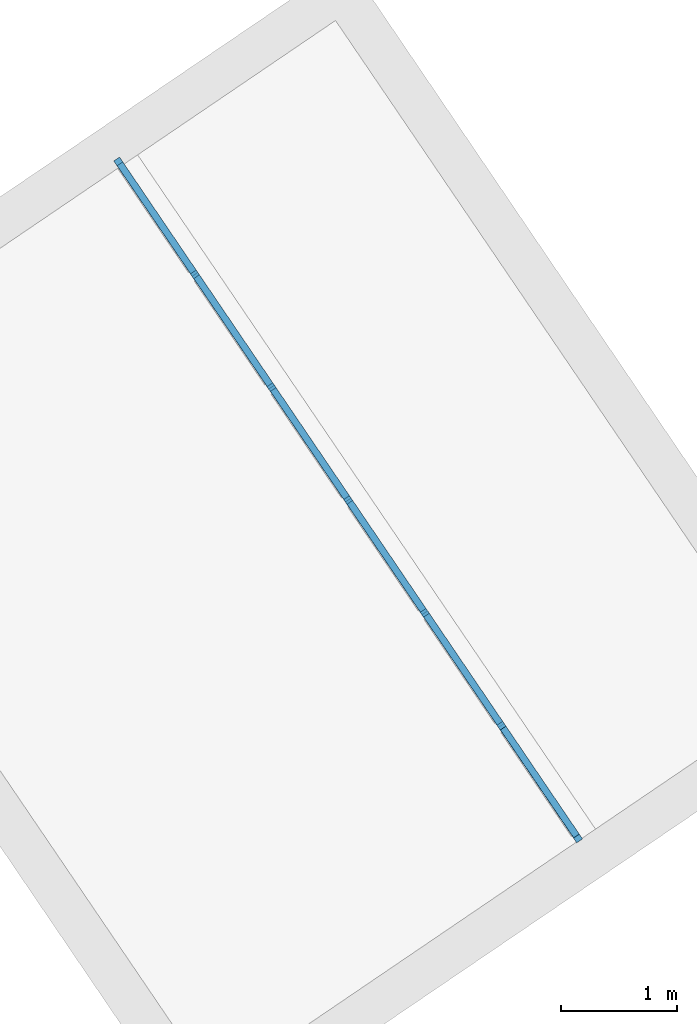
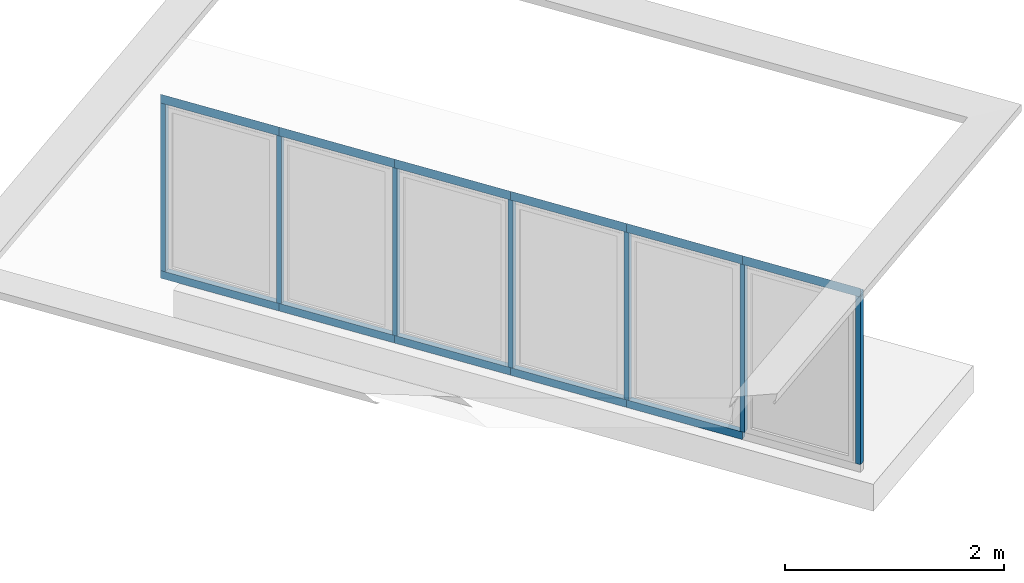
# One storey, part 18 of 28: 18 members, 1 element without a shape of its own.
"""IFC2X3 building model written with IfcOpenShell, lengths in metres."""

import ifcopenshell
import ifcopenshell.guid

model = None  # the IFC model being written
_history = None  # IfcOwnerHistory: only IFC2X3 demands one
_inside = {}  # id of a spatial element -> (the spatial element, [elements in it])
_under = {}  # id of a project, library or spatial element -> (it, [spatial elements below it])
_declared = {}  # id of a project -> (the project, [libraries it declares])
_typed = {}  # id of a type object -> (the type object, [elements of that type])
_made_of = {}  # id of a material, layer set ... -> (it, [elements and type objects made of it])


def new_model(schema):
    """Start an empty IFC model of exactly this schema.

    Asked for "IFC4X3", IfcOpenShell would pick the latest addendum, in which some entities
    have other attributes; the version numbers below select the first issue.
    IFC2X3 requires an IfcOwnerHistory on every rooted entity: one is made here for all.
    """
    global model, _history
    if schema == "IFC4X3":
        model = ifcopenshell.file(schema_version=(4, 3, 0, 0))
    else:
        model = ifcopenshell.file(schema=schema)
    _inside.clear()
    _under.clear()
    _declared.clear()
    _typed.clear()
    _made_of.clear()
    _history = None
    if model.schema == "IFC2X3":
        org = make("IfcOrganization", Name="unknown")
        user = make(
            "IfcPersonAndOrganization",
            ThePerson=make("IfcPerson", FamilyName="unknown"),
            TheOrganization=org,
        )
        app = make(
            "IfcApplication",
            ApplicationDeveloper=org,
            Version="unknown",
            ApplicationFullName="unknown",
            ApplicationIdentifier="unknown",
        )
        _history = make(
            "IfcOwnerHistory",
            OwningUser=user,
            OwningApplication=app,
            ChangeAction="ADDED",
            CreationDate=0,
        )
    return model


def make(cls, **values):
    """One entity of the class cls with the attributes given. An attribute that is None is left unset."""
    return model.create_entity(
        cls, **{name: value for name, value in values.items() if value is not None}
    )


def entity(cls, *values):
    """Any entity or typed value of the class cls, its attributes in the order of the schema. None: left unset."""
    e = model.create_entity(cls)
    for i, value in enumerate(values):
        if value is not None:
            e[i] = value
    return e


def rooted(cls, **values):
    """An entity with a GlobalId (a new one), such as an element, a storey or a relation."""
    return make(cls, GlobalId=ifcopenshell.guid.new(), OwnerHistory=_history, **values)


def si_unit(unit_type, name, prefix=None):
    """IfcSIUnit, for example si_unit("LENGTHUNIT", "METRE", prefix="MILLI")."""
    return make("IfcSIUnit", UnitType=unit_type, Prefix=prefix, Name=name)


def converted_unit(unit_type, name, factor, base, dimensions=None, offset=None):
    """IfcConversionBasedUnit, such as the inch: factor (a typed value) times the base unit."""
    return make(
        "IfcConversionBasedUnit"
        if offset is None
        else "IfcConversionBasedUnitWithOffset",
        ConversionOffset=offset,
        Dimensions=None
        if dimensions is None
        else entity("IfcDimensionalExponents", *dimensions),
        UnitType=unit_type,
        Name=name,
        ConversionFactor=make(
            "IfcMeasureWithUnit", ValueComponent=factor, UnitComponent=base
        ),
    )


def derived_unit(unit_type, elements):
    """IfcDerivedUnit: a product of units, each with its exponent."""
    return make(
        "IfcDerivedUnit",
        Elements=[
            make("IfcDerivedUnitElement", Unit=unit, Exponent=power)
            for unit, power in elements
        ],
        UnitType=unit_type,
    )


def assignment(units):
    """IfcUnitAssignment: the units of a project."""
    return None if units is None else make("IfcUnitAssignment", Units=units)


def point(xyz):
    """IfcCartesianPoint."""
    return None if xyz is None else make("IfcCartesianPoint", Coordinates=xyz)


def direction(xyz):
    """IfcDirection."""
    return None if xyz is None else make("IfcDirection", DirectionRatios=xyz)


def frame(location, z_axis=None, x_axis=None):
    """IfcAxis2Placement3D, a coordinate frame: its origin and axes. An axis left out is left unset."""
    return make(
        "IfcAxis2Placement3D",
        Location=point(location),
        Axis=direction(z_axis),
        RefDirection=direction(x_axis),
    )


def frame_2d(location, x_axis=None):
    """IfcAxis2Placement2D, a coordinate frame in the plane: its origin and x axis."""
    return make(
        "IfcAxis2Placement2D", Location=point(location), RefDirection=direction(x_axis)
    )


def origin():
    """The frame at (0, 0, 0) with its axes left unset."""
    return frame((0.0, 0.0, 0.0))


def origin_2d_with_axis():
    """The frame at (0, 0) in the plane with the x axis (1, 0) written out."""
    return frame_2d((0.0, 0.0), x_axis=(1.0, 0.0))


def place(relative_to, where):
    """IfcLocalPlacement: puts the frame where relative to a parent placement (None: the world)."""
    return make(
        "IfcLocalPlacement", PlacementRelTo=relative_to, RelativePlacement=where
    )


def context(
    kind, dimensions, precision=None, world=None, true_north=None, identifier=None
):
    """IfcGeometricRepresentationContext, for example the 3D "Model" context."""
    return make(
        "IfcGeometricRepresentationContext",
        ContextIdentifier=identifier,
        ContextType=kind,
        CoordinateSpaceDimension=dimensions,
        Precision=precision,
        WorldCoordinateSystem=world,
        TrueNorth=true_north,
    )


def subcontext(parent, identifier, kind, view, scale=None):
    """IfcGeometricRepresentationSubContext, for example "Body" below "Model"."""
    return make(
        "IfcGeometricRepresentationSubContext",
        ContextIdentifier=identifier,
        ContextType=kind,
        ParentContext=parent,
        TargetScale=scale,
        TargetView=view,
    )


def project(units=None, contexts=None):
    """IfcProject with its units and contexts."""
    return rooted(
        "IfcProject",
        Name="project",
        RepresentationContexts=contexts,
        UnitsInContext=assignment(units),
    )


def spatial(cls, under=None, at=None, **own):
    """A site, building, storey or space (cls), placed at a placement, below another one or the project."""
    s = rooted(cls, ObjectPlacement=at, **own)
    if under is not None:
        _under.setdefault(under.id(), (under, []))[1].append(s)
    return s


def polyline(points):
    """IfcPolyline through the points."""
    return make("IfcPolyline", Points=[point(p) for p in points])


def profile(cls, at=None, kind="AREA", **sizes):
    """A parametric profile (cls). Its sizes go by their IFC names, for example OverallWidth=200.0."""
    return make(cls, ProfileType=kind, Position=at, **sizes)


def rectangle(**sizes):
    """IfcRectangleProfileDef."""
    return profile("IfcRectangleProfileDef", **sizes)


def outline(outer, holes=None, kind="AREA"):
    """IfcArbitraryClosedProfileDef: a profile drawn as a closed curve; with holes, ...WithVoids."""
    if holes is None:
        return make("IfcArbitraryClosedProfileDef", ProfileType=kind, OuterCurve=outer)
    return make(
        "IfcArbitraryProfileDefWithVoids",
        ProfileType=kind,
        OuterCurve=outer,
        InnerCurves=holes,
    )


def extrude(swept, where, along, depth):
    """IfcExtrudedAreaSolid: the profile swept, set in the frame where, extruded along a direction by depth."""
    return make(
        "IfcExtrudedAreaSolid",
        SweptArea=swept,
        Position=where,
        ExtrudedDirection=direction(along),
        Depth=depth,
    )


def shape(context_of_items, identifier, shape_type, items):
    """IfcShapeRepresentation: the items that make up one representation, for example the "Body"."""
    return make(
        "IfcShapeRepresentation",
        ContextOfItems=context_of_items,
        RepresentationIdentifier=identifier,
        RepresentationType=shape_type,
        Items=items,
    )


def source(mapping_origin, context_of_items, identifier, shape_type, items):
    """IfcRepresentationMap: a shape defined once, which mapped items show again and again."""
    return make(
        "IfcRepresentationMap",
        MappingOrigin=mapping_origin,
        MappedRepresentation=shape(context_of_items, identifier, shape_type, items),
    )


def transform(
    local_origin,
    x_axis=None,
    y_axis=None,
    z_axis=None,
    scale=None,
    scale2=None,
    scale3=None,
    uniform=True,
):
    """IfcCartesianTransformationOperator3D, or its non-uniform kind. x_axis, y_axis, z_axis: its Axis1, 2, 3."""
    if uniform:
        return make(
            "IfcCartesianTransformationOperator3D",
            Axis1=direction(x_axis),
            Axis2=direction(y_axis),
            LocalOrigin=point(local_origin),
            Scale=scale,
            Axis3=direction(z_axis),
        )
    return make(
        "IfcCartesianTransformationOperator3DnonUniform",
        Axis1=direction(x_axis),
        Axis2=direction(y_axis),
        LocalOrigin=point(local_origin),
        Scale=scale,
        Axis3=direction(z_axis),
        Scale2=scale2,
        Scale3=scale3,
    )


def mapped(mapping_source, mapping_target):
    """IfcMappedItem: shows the shape of a source again, moved by a transform."""
    return make(
        "IfcMappedItem", MappingSource=mapping_source, MappingTarget=mapping_target
    )


def material(Name=None, Category=None):
    """IfcMaterial."""
    return make("IfcMaterial", Name=Name, Category=Category)


def made_of(thing, what):
    """Note that an element or type object is made of a material, layer set ...; save() writes the relation."""
    if what is not None:
        _made_of.setdefault(what.id(), (what, []))[1].append(thing)
    return thing


def type_object(cls, material=None, **own):
    """A type object (cls), such as IfcWallType, which elements share."""
    return made_of(rooted(cls, **own), material)


def type_shapes(of_type, sources):
    """Give a type object the sources (RepresentationMaps) that its elements show as mapped items."""
    of_type.RepresentationMaps = sources


def element(
    cls,
    number,
    at=None,
    inside=None,
    cuts=None,
    type_object=None,
    material=None,
    context=None,
    identifier="Body",
    shape_type=None,
    held_by="IfcProductDefinitionShape",
    body=None,
    shapes=None,
    **own,
):
    """One element of the class cls, such as IfcWall. Its Tag is "e" and its number.

    at: its placement. inside: the storey or other place that contains it. cuts: it is an
    opening in that element (IfcRelVoidsElement). A single representation is given by context,
    identifier, shape_type and body (its items); several are given by shapes. held_by: the class
    of the entity that holds the representations. save() writes the other relations.
    """
    e = rooted(cls, Tag="e%d" % number, ObjectPlacement=at, **own)
    if body is not None:
        shapes = [shape(context, identifier, shape_type, body)]
    if shapes is not None:
        e.Representation = make(held_by, Representations=shapes)
    if inside is not None:
        _inside.setdefault(inside.id(), (inside, []))[1].append(e)
    if cuts is not None:
        rooted(
            "IfcRelVoidsElement", RelatingBuildingElement=cuts, RelatedOpeningElement=e
        )
    if type_object is not None:
        _typed.setdefault(type_object.id(), (type_object, []))[1].append(e)
    return made_of(e, material)


def aggregate(whole, parts):
    """IfcRelAggregates: a whole, such as a stair, and the parts it consists of."""
    return rooted("IfcRelAggregates", RelatingObject=whole, RelatedObjects=parts)


def save(model, path):
    """Write the relations noted so far, then the file.

    IfcRelAggregates (storeys below a building ...), IfcRelContainedInSpatialStructure (elements
    in a storey), IfcRelDefinesByType, IfcRelAssociatesMaterial and IfcRelDeclares: one each for
    every whole, place, type object, material and project.
    """
    for whole, parts in _under.values():
        aggregate(whole, parts)
    for where, things in _inside.values():
        rooted(
            "IfcRelContainedInSpatialStructure",
            RelatedElements=things,
            RelatingStructure=where,
        )
    for kind, things in _typed.values():
        rooted("IfcRelDefinesByType", RelatedObjects=things, RelatingType=kind)
    for what, things in _made_of.values():
        rooted("IfcRelAssociatesMaterial", RelatedObjects=things, RelatingMaterial=what)
    for by, libraries in _declared.values():
        rooted("IfcRelDeclares", RelatingContext=by, RelatedDefinitions=libraries)
    model.write(path)


model = new_model("IFC2X3")

# Units and contexts
model_context = context("Model", 3, precision=1e-05, world=origin(), true_north=direction((6.123031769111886e-17, 1.0)))
body_context = subcontext(model_context, "Body", "Model", "MODEL_VIEW")
ifc_project = project(units=[si_unit("LENGTHUNIT", "METRE"), si_unit("AREAUNIT", "SQUARE_METRE"), si_unit("VOLUMEUNIT", "CUBIC_METRE"), converted_unit("PLANEANGLEUNIT", "DEGREE", entity("IfcRatioMeasure", 0.017453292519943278), si_unit("PLANEANGLEUNIT", "RADIAN"), dimensions=[0, 0, 0, 0, 0, 0, 0]), si_unit("MASSUNIT", "GRAM", prefix="KILO"), derived_unit("MASSDENSITYUNIT", [(si_unit("MASSUNIT", "GRAM", prefix="KILO"), 1), (si_unit("LENGTHUNIT", "METRE"), -3)]), derived_unit("IONCONCENTRATIONUNIT", [(si_unit("MASSUNIT", "GRAM", prefix="KILO"), 1), (si_unit("LENGTHUNIT", "METRE"), -3)]), derived_unit("MOMENTOFINERTIAUNIT", [(si_unit("LENGTHUNIT", "METRE"), 4)]), si_unit("TIMEUNIT", "SECOND"), si_unit("FREQUENCYUNIT", "HERTZ"), si_unit("THERMODYNAMICTEMPERATUREUNIT", "DEGREE_CELSIUS"), derived_unit("THERMALTRANSMITTANCEUNIT", [(si_unit("MASSUNIT", "GRAM", prefix="KILO"), 1), (si_unit("THERMODYNAMICTEMPERATUREUNIT", "KELVIN"), -1), (si_unit("TIMEUNIT", "SECOND"), -3)]), derived_unit("THERMALCONDUCTANCEUNIT", [(si_unit("MASSUNIT", "GRAM", prefix="KILO"), 1), (si_unit("THERMODYNAMICTEMPERATUREUNIT", "KELVIN"), -1), (si_unit("TIMEUNIT", "SECOND"), -3), (si_unit("LENGTHUNIT", "METRE"), 1)]), derived_unit("VOLUMETRICFLOWRATEUNIT", [(si_unit("LENGTHUNIT", "METRE"), 3), (si_unit("TIMEUNIT", "SECOND"), -1)]), derived_unit("MASSFLOWRATEUNIT", [(si_unit("MASSUNIT", "GRAM", prefix="KILO"), 1), (si_unit("TIMEUNIT", "SECOND"), -1)]), derived_unit("ROTATIONALFREQUENCYUNIT", [(si_unit("TIMEUNIT", "SECOND"), -1)]), si_unit("ELECTRICCURRENTUNIT", "AMPERE"), si_unit("ELECTRICVOLTAGEUNIT", "VOLT"), si_unit("POWERUNIT", "WATT"), si_unit("FORCEUNIT", "NEWTON", prefix="KILO"), si_unit("ILLUMINANCEUNIT", "LUX"), si_unit("LUMINOUSFLUXUNIT", "LUMEN"), si_unit("LUMINOUSINTENSITYUNIT", "CANDELA"), derived_unit("USERDEFINED", [(si_unit("MASSUNIT", "GRAM", prefix="KILO"), -1), (si_unit("LENGTHUNIT", "METRE"), -2), (si_unit("TIMEUNIT", "SECOND"), 3), (si_unit("LUMINOUSFLUXUNIT", "LUMEN"), 1)]), derived_unit("USERDEFINED", [(si_unit("MASSUNIT", "GRAM", prefix="KILO"), 1), (si_unit("TIMEUNIT", "SECOND"), -3), (si_unit("LENGTHUNIT", "METRE"), 3), (si_unit("ELECTRICCURRENTUNIT", "AMPERE"), -2)]), derived_unit("SOUNDPOWERUNIT", [(si_unit("MASSUNIT", "GRAM", prefix="KILO"), 1), (si_unit("TIMEUNIT", "SECOND"), -3), (si_unit("LENGTHUNIT", "METRE"), 2)]), derived_unit("SOUNDPRESSUREUNIT", [(si_unit("MASSUNIT", "GRAM", prefix="KILO"), 1), (si_unit("LENGTHUNIT", "METRE"), -1), (si_unit("TIMEUNIT", "SECOND"), -2)]), derived_unit("LINEARVELOCITYUNIT", [(si_unit("LENGTHUNIT", "METRE"), 1), (si_unit("TIMEUNIT", "SECOND"), -1)]), si_unit("PRESSUREUNIT", "PASCAL"), derived_unit("USERDEFINED", [(si_unit("MASSUNIT", "GRAM", prefix="KILO"), 1), (si_unit("LENGTHUNIT", "METRE"), -2), (si_unit("TIMEUNIT", "SECOND"), -2)]), derived_unit("LINEARFORCEUNIT", [(si_unit("MASSUNIT", "GRAM", prefix="KILO"), 1), (si_unit("TIMEUNIT", "SECOND"), -2)]), derived_unit("PLANARFORCEUNIT", [(si_unit("MASSUNIT", "GRAM", prefix="KILO"), 1), (si_unit("LENGTHUNIT", "METRE"), -1), (si_unit("TIMEUNIT", "SECOND"), -2)]), derived_unit("SPECIFICHEATCAPACITYUNIT", [(si_unit("THERMODYNAMICTEMPERATUREUNIT", "KELVIN"), -1), (si_unit("LENGTHUNIT", "METRE"), 2), (si_unit("TIMEUNIT", "SECOND"), -2)]), derived_unit("HEATINGVALUEUNIT", [(si_unit("LENGTHUNIT", "METRE"), 2), (si_unit("TIMEUNIT", "SECOND"), -2)]), derived_unit("VAPORPERMEABILITYUNIT", [(si_unit("LENGTHUNIT", "METRE"), -1), (si_unit("TIMEUNIT", "SECOND"), 1)]), derived_unit("DYNAMICVISCOSITYUNIT", [(si_unit("MASSUNIT", "GRAM", prefix="KILO"), 1), (si_unit("TIMEUNIT", "SECOND"), -1), (si_unit("LENGTHUNIT", "METRE"), -1)]), derived_unit("THERMALEXPANSIONCOEFFICIENTUNIT", [(si_unit("THERMODYNAMICTEMPERATUREUNIT", "KELVIN"), -1)]), derived_unit("MODULUSOFELASTICITYUNIT", [(si_unit("MASSUNIT", "GRAM", prefix="KILO"), 1), (si_unit("LENGTHUNIT", "METRE"), -1), (si_unit("TIMEUNIT", "SECOND"), -2)]), derived_unit("ISOTHERMALMOISTURECAPACITYUNIT", [(si_unit("LENGTHUNIT", "METRE"), 3), (si_unit("MASSUNIT", "GRAM", prefix="KILO"), -1)]), derived_unit("MOISTUREDIFFUSIVITYUNIT", [(si_unit("TIMEUNIT", "SECOND"), -1), (si_unit("LENGTHUNIT", "METRE"), 2)])], contexts=[model_context])

# Site, building, storey
site_placement = place(None, frame((0.0, 0.0, 235.0), z_axis=(0.0, 0.0, 1.0), x_axis=(-0.7996477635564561, 0.6004693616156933, 0.0)))
site = spatial("IfcSite", under=ifc_project, at=site_placement, Name="Default", CompositionType="ELEMENT")
building_placement = place(site_placement, origin())
building = spatial("IfcBuilding", under=site, at=building_placement, CompositionType="ELEMENT")
storey_placement = place(building_placement, frame((0.0, 0.0, 3.400000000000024)))
storey = spatial("IfcBuildingStorey", under=building, at=storey_placement, Name="PC- Coberta STR", CompositionType="ELEMENT", Elevation=3.400000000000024)

# Curtain wall, members
curtain_wall_type = type_object("IfcCurtainWallType", Name="Muro cortina:MC- EXT- MC8- Biblio", PredefinedType="NOTDEFINED")
curtain_wall_placement = place(storey_placement, frame((0.0, 0.0, -3.400000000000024)))
curtain_wall = element("IfcCurtainWall", 1, at=curtain_wall_placement, inside=storey, type_object=curtain_wall_type, Name="Muro cortina:MC- EXT- MC8- Biblio", ObjectType="Muro cortina:MC- EXT- MC8- Biblio")
ifc_material = material(Name="_Alumini- T1- Perfil")
member_type_1 = type_object("IfcMemberType", Name="Montante rectangular:MC- Alu- 140x52,5 cm- Fa pista- Superior", PredefinedType="MULLION", material=ifc_material)
shared_shape_1 = source(origin(), body_context, "Body", "SweptSolid", [
    extrude(outline(polyline([(-0.03933333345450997, -0.04916666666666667), (0.02066666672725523, -0.04916666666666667), (0.020666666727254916, 0.048333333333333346), (0.018666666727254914, 0.04833333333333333), (0.018666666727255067, 0.00083333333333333), (-0.03933333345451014, 0.00083333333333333), (-0.03933333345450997, -0.04916666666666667)])), frame((-0.048333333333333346, -0.03933333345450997, -1.2000000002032), z_axis=(0.0, 0.0, 1.0), x_axis=(0.0, -1.0, 0.0)), (0.0, 0.0, 1.0), 1.2000000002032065),
])
type_shapes(member_type_1, [shared_shape_1])
member_1_placement = place(curtain_wall_placement, frame((65.66403931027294, -50.81347375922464, 6.0), z_axis=(0.9460037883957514, -0.3241555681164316, 0.0), x_axis=(0.0, 0.0, 1.0)))
member_1 = element("IfcMember", 2, at=member_1_placement, type_object=member_type_1, material=ifc_material, Name="Montante rectangular:MC- Alu- 140x52,5 cm- Fa pista- Superior", ObjectType="Montante rectangular:MC- Alu- 140x52,5 cm- Fa pista- Superior", context=body_context, shape_type="MappedRepresentation", body=[
    mapped(shared_shape_1, transform((0.0, 0.0, 0.0), scale=1.0)),
])
member_type_2 = type_object("IfcMemberType", Name="Montante rectangular:MC- Alu- 50x60 cm- Fa pista- Centre", PredefinedType="MULLION", material=ifc_material)
shared_shape_2 = source(origin(), body_context, "Body", "SweptSolid", [
    extrude(rectangle(XDim=0.06000000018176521, YDim=0.05, at=frame_2d((3.469446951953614e-18, 0.0), x_axis=(1.0, 0.0))), frame((-0.025, -0.030000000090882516, -1.8675000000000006), z_axis=(0.0, 0.0, 1.0), x_axis=(0.0, -1.0, 0.0)), (0.0, 0.0, 1.0), 1.8675000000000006),
])
type_shapes(member_type_2, [shared_shape_2])
member_2_placement = place(curtain_wall_placement, frame((65.66403931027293, -50.813473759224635, 4.035000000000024), z_axis=(0.0, 0.0, -1.0), x_axis=(0.9460037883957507, -0.3241555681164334, 0.0)))
member_2 = element("IfcMember", 3, at=member_2_placement, type_object=member_type_2, material=ifc_material, Name="Montante rectangular:MC- Alu- 50x60 cm- Fa pista- Centre", ObjectType="Montante rectangular:MC- Alu- 50x60 cm- Fa pista- Centre", context=body_context, shape_type="MappedRepresentation", body=[
    mapped(shared_shape_2, transform((0.0, 0.0, 0.0), scale=1.0)),
])
member_type_3 = type_object("IfcMemberType", Name="Montante rectangular:MC- Alu- 50x60 cm- Fa pista- Centre", PredefinedType="MULLION", material=ifc_material)
shared_shape_3 = source(origin(), body_context, "Body", "SweptSolid", [
    extrude(rectangle(XDim=0.0600000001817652, YDim=0.05, at=origin_2d_with_axis()), frame((-0.025, -0.030000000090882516, -1.867500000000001), z_axis=(0.0, 0.0, 1.0), x_axis=(0.0, -1.0, 0.0)), (0.0, 0.0, 1.0), 1.867500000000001),
])
type_shapes(member_type_3, [shared_shape_3])
member_3_placement = place(curtain_wall_placement, frame((58.94741241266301, -48.51196922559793, 5.902500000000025), z_axis=(0.0, 0.0, 1.0), x_axis=(-0.9460037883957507, 0.3241555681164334, 0.0)))
member_3 = element("IfcMember", 4, at=member_3_placement, type_object=member_type_3, material=ifc_material, Name="Montante rectangular:MC- Alu- 50x60 cm- Fa pista- Centre", ObjectType="Montante rectangular:MC- Alu- 50x60 cm- Fa pista- Centre", context=body_context, shape_type="MappedRepresentation", body=[
    mapped(shared_shape_3, transform((0.0, 0.0, 0.0), scale=1.0)),
])
member_type_4 = type_object("IfcMemberType", Name="Montante rectangular:MC- Alu- 140x52,5 cm- Fa pista- Superior", PredefinedType="MULLION", material=ifc_material)
shared_shape_4 = source(origin(), body_context, "Body", "SweptSolid", [
    extrude(outline(polyline([(-0.03933333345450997, -0.04916666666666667), (0.02066666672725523, -0.04916666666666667), (0.020666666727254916, 0.048333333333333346), (0.018666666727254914, 0.04833333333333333), (0.018666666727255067, 0.00083333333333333), (-0.03933333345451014, 0.00083333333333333), (-0.03933333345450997, -0.04916666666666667)])), frame((-0.048333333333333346, -0.03933333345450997, -1.1749999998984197), z_axis=(0.0, 0.0, 1.0), x_axis=(0.0, -1.0, 0.0)), (0.0, 0.0, 1.0), 1.1749999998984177),
])
type_shapes(member_type_4, [shared_shape_4])
member_4_placement = place(curtain_wall_placement, frame((61.19417141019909, -49.281838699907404, 6.0), z_axis=(0.9460037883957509, -0.32415556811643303, 0.0), x_axis=(0.0, 0.0, 1.0)))
member_4 = element("IfcMember", 5, at=member_4_placement, type_object=member_type_4, material=ifc_material, Name="Montante rectangular:MC- Alu- 140x52,5 cm- Fa pista- Superior", ObjectType="Montante rectangular:MC- Alu- 140x52,5 cm- Fa pista- Superior", context=body_context, shape_type="MappedRepresentation", body=[
    mapped(shared_shape_4, transform((0.0, 0.0, 0.0), scale=1.0)),
])
member_5_placement = place(curtain_wall_placement, frame((62.30572586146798, -49.66272149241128, 6.0), z_axis=(0.9460037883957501, -0.3241555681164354, 0.0), x_axis=(0.0, 0.0, 1.0)))
member_5 = element("IfcMember", 6, at=member_5_placement, type_object=member_type_4, material=ifc_material, Name="Montante rectangular:MC- Alu- 140x52,5 cm- Fa pista- Superior", ObjectType="Montante rectangular:MC- Alu- 140x52,5 cm- Fa pista- Superior", context=body_context, shape_type="MappedRepresentation", body=[
    mapped(shared_shape_4, transform((0.0, 0.0, 0.0), scale=1.0)),
])
member_6_placement = place(curtain_wall_placement, frame((63.41728031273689, -50.04360428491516, 6.0), z_axis=(0.9460037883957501, -0.3241555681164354, 0.0), x_axis=(0.0, 0.0, 1.0)))
member_6 = element("IfcMember", 7, at=member_6_placement, type_object=member_type_4, material=ifc_material, Name="Montante rectangular:MC- Alu- 140x52,5 cm- Fa pista- Superior", ObjectType="Montante rectangular:MC- Alu- 140x52,5 cm- Fa pista- Superior", context=body_context, shape_type="MappedRepresentation", body=[
    mapped(shared_shape_4, transform((0.0, 0.0, 0.0), scale=1.0)),
])
member_7_placement = place(curtain_wall_placement, frame((64.52883476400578, -50.42448707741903, 6.0), z_axis=(0.9460037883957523, -0.32415556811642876, 0.0), x_axis=(0.0, 0.0, 1.0)))
member_7 = element("IfcMember", 8, at=member_7_placement, type_object=member_type_4, material=ifc_material, Name="Montante rectangular:MC- Alu- 140x52,5 cm- Fa pista- Superior", ObjectType="Montante rectangular:MC- Alu- 140x52,5 cm- Fa pista- Superior", context=body_context, shape_type="MappedRepresentation", body=[
    mapped(shared_shape_4, transform((0.0, 0.0, 0.0), scale=1.0)),
])
member_type_5 = type_object("IfcMemberType", Name="Montante rectangular:MC- Alu- 52x80 cm- Fa pista- inferior", PredefinedType="MULLION", material=ifc_material)
shared_shape_5 = source(origin(), body_context, "Body", "SweptSolid", [
    extrude(rectangle(XDim=0.06000000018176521, YDim=0.085, at=origin_2d_with_axis()), frame((-0.0425, -0.030000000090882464, -1.174999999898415), z_axis=(0.0, 0.0, 1.0), x_axis=(0.0, -1.0, 0.0)), (0.0, 0.0, 1.0), 1.174999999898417),
])
type_shapes(member_type_5, [shared_shape_5])
member_8_placement = place(curtain_wall_placement, frame((61.194171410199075, -49.2818386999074, 3.950000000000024), z_axis=(-0.9460037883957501, 0.3241555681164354, 0.0), x_axis=(0.0, 0.0, -1.0)))
member_8 = element("IfcMember", 9, at=member_8_placement, type_object=member_type_5, material=ifc_material, Name="Montante rectangular:MC- Alu- 52x80 cm- Fa pista- inferior", ObjectType="Montante rectangular:MC- Alu- 52x80 cm- Fa pista- inferior", context=body_context, shape_type="MappedRepresentation", body=[
    mapped(shared_shape_5, transform((0.0, 0.0, 0.0), scale=1.0)),
])
member_9_placement = place(curtain_wall_placement, frame((62.30572586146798, -49.66272149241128, 3.950000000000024), z_axis=(-0.9460037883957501, 0.3241555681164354, 0.0), x_axis=(0.0, 0.0, -1.0)))
member_9 = element("IfcMember", 10, at=member_9_placement, type_object=member_type_5, material=ifc_material, Name="Montante rectangular:MC- Alu- 52x80 cm- Fa pista- inferior", ObjectType="Montante rectangular:MC- Alu- 52x80 cm- Fa pista- inferior", context=body_context, shape_type="MappedRepresentation", body=[
    mapped(shared_shape_5, transform((0.0, 0.0, 0.0), scale=1.0)),
])
member_10_placement = place(curtain_wall_placement, frame((63.41728031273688, -50.04360428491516, 3.950000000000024), z_axis=(-0.9460037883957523, 0.32415556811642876, 0.0), x_axis=(0.0, 0.0, -1.0)))
member_10 = element("IfcMember", 11, at=member_10_placement, type_object=member_type_5, material=ifc_material, Name="Montante rectangular:MC- Alu- 52x80 cm- Fa pista- inferior", ObjectType="Montante rectangular:MC- Alu- 52x80 cm- Fa pista- inferior", context=body_context, shape_type="MappedRepresentation", body=[
    mapped(shared_shape_5, transform((0.0, 0.0, 0.0), scale=1.0)),
])
member_11_placement = place(curtain_wall_placement, frame((60.08261695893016, -48.900955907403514, 3.950000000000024), z_axis=(-0.9460037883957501, 0.3241555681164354, 0.0), x_axis=(0.0, 0.0, -1.0)))
member_11 = element("IfcMember", 12, at=member_11_placement, type_object=member_type_5, material=ifc_material, Name="Montante rectangular:MC- Alu- 52x80 cm- Fa pista- inferior", ObjectType="Montante rectangular:MC- Alu- 52x80 cm- Fa pista- inferior", context=body_context, shape_type="MappedRepresentation", body=[
    mapped(shared_shape_5, transform((0.0, 0.0, 0.0), scale=1.0)),
])
member_type_6 = type_object("IfcMemberType", Name="Montante rectangular:MC- Alu- 52x80 cm- Fa pista- inferior", PredefinedType="MULLION", material=ifc_material)
shared_shape_6 = source(origin(), body_context, "Body", "SweptSolid", [
    extrude(rectangle(XDim=0.06000000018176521, YDim=0.085, at=origin_2d_with_axis()), frame((-0.0425, -0.030000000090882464, -1.2000000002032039), z_axis=(0.0, 0.0, 1.0), x_axis=(0.0, -1.0, 0.0)), (0.0, 0.0, 1.0), 1.200000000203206),
])
type_shapes(member_type_6, [shared_shape_6])
member_12_placement = place(curtain_wall_placement, frame((64.5288347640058, -50.424487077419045, 3.950000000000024), z_axis=(-0.9460037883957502, 0.3241555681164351, 0.0), x_axis=(0.0, 0.0, -1.0)))
member_12 = element("IfcMember", 13, at=member_12_placement, type_object=member_type_6, material=ifc_material, Name="Montante rectangular:MC- Alu- 52x80 cm- Fa pista- inferior", ObjectType="Montante rectangular:MC- Alu- 52x80 cm- Fa pista- inferior", context=body_context, shape_type="MappedRepresentation", body=[
    mapped(shared_shape_6, transform((0.0, 0.0, 0.0), scale=1.0)),
])
member_type_7 = type_object("IfcMemberType", Name="Montante rectangular:MC- Alu- 50x60 cm- Fa pista- Centre", PredefinedType="MULLION", material=ifc_material)
shared_shape_7 = source(origin(), body_context, "Body", "SweptSolid", [
    extrude(rectangle(XDim=0.0600000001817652, YDim=0.05, at=frame_2d((8.673617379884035e-18, 0.0), x_axis=(1.0, 0.0))), frame((0.0, -0.030000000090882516, -1.8675000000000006), z_axis=(0.0, 0.0, 1.0), x_axis=(0.0, -1.0, 0.0)), (0.0, 0.0, 1.0), 1.8675000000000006),
])
type_shapes(member_type_7, [shared_shape_7])
member_13_placement = place(curtain_wall_placement, frame((61.19417141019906, -49.2818386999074, 4.035000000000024), z_axis=(0.0, 0.0, -1.0), x_axis=(0.9460037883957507, -0.3241555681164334, 0.0)))
member_13 = element("IfcMember", 14, at=member_13_placement, type_object=member_type_7, material=ifc_material, Name="Montante rectangular:MC- Alu- 50x60 cm- Fa pista- Centre", ObjectType="Montante rectangular:MC- Alu- 50x60 cm- Fa pista- Centre", context=body_context, shape_type="MappedRepresentation", body=[
    mapped(shared_shape_7, transform((0.0, 0.0, 0.0), scale=1.0)),
])
member_14_placement = place(curtain_wall_placement, frame((62.30572586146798, -49.66272149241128, 4.035000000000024), z_axis=(0.0, 0.0, -1.0), x_axis=(0.9460037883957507, -0.3241555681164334, 0.0)))
member_14 = element("IfcMember", 15, at=member_14_placement, type_object=member_type_7, material=ifc_material, Name="Montante rectangular:MC- Alu- 50x60 cm- Fa pista- Centre", ObjectType="Montante rectangular:MC- Alu- 50x60 cm- Fa pista- Centre", context=body_context, shape_type="MappedRepresentation", body=[
    mapped(shared_shape_7, transform((0.0, 0.0, 0.0), scale=1.0)),
])
member_15_placement = place(curtain_wall_placement, frame((63.41728031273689, -50.04360428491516, 4.035000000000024), z_axis=(0.0, 0.0, -1.0), x_axis=(0.9460037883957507, -0.3241555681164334, 0.0)))
member_15 = element("IfcMember", 16, at=member_15_placement, type_object=member_type_7, material=ifc_material, Name="Montante rectangular:MC- Alu- 50x60 cm- Fa pista- Centre", ObjectType="Montante rectangular:MC- Alu- 50x60 cm- Fa pista- Centre", context=body_context, shape_type="MappedRepresentation", body=[
    mapped(shared_shape_7, transform((0.0, 0.0, 0.0), scale=1.0)),
])
member_16_placement = place(curtain_wall_placement, frame((64.5288347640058, -50.424487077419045, 4.035000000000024), z_axis=(0.0, 0.0, -1.0), x_axis=(0.9460037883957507, -0.3241555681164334, 0.0)))
member_16 = element("IfcMember", 17, at=member_16_placement, type_object=member_type_7, material=ifc_material, Name="Montante rectangular:MC- Alu- 50x60 cm- Fa pista- Centre", ObjectType="Montante rectangular:MC- Alu- 50x60 cm- Fa pista- Centre", context=body_context, shape_type="MappedRepresentation", body=[
    mapped(shared_shape_7, transform((0.0, 0.0, 0.0), scale=1.0)),
])
member_17_placement = place(curtain_wall_placement, frame((60.08261695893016, -48.900955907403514, 4.035000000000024), z_axis=(0.0, 0.0, -1.0), x_axis=(0.9460037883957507, -0.3241555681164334, 0.0)))
member_17 = element("IfcMember", 18, at=member_17_placement, type_object=member_type_7, material=ifc_material, Name="Montante rectangular:MC- Alu- 50x60 cm- Fa pista- Centre", ObjectType="Montante rectangular:MC- Alu- 50x60 cm- Fa pista- Centre", context=body_context, shape_type="MappedRepresentation", body=[
    mapped(shared_shape_7, transform((0.0, 0.0, 0.0), scale=1.0)),
])
member_type_8 = type_object("IfcMemberType", Name="Montante rectangular:MC- Alu- 140x52,5 cm- Fa pista- Superior", PredefinedType="MULLION", material=ifc_material)
shared_shape_8 = source(origin(), body_context, "Body", "SweptSolid", [
    extrude(outline(polyline([(-0.03933333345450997, -0.04916666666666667), (0.02066666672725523, -0.04916666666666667), (0.020666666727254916, 0.048333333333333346), (0.018666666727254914, 0.04833333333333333), (0.018666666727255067, 0.00083333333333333), (-0.03933333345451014, 0.00083333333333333), (-0.03933333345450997, -0.04916666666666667)])), frame((-0.048333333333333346, -0.03933333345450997, -1.2000000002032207), z_axis=(0.0, 0.0, 1.0), x_axis=(0.0, -1.0, 0.0)), (0.0, 0.0, 1.0), 1.200000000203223),
])
type_shapes(member_type_8, [shared_shape_8])
member_18_placement = place(curtain_wall_placement, frame((60.082616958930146, -48.900955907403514, 6.0), z_axis=(0.9460037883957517, -0.32415556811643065, 0.0), x_axis=(0.0, 0.0, 1.0)))
member_18 = element("IfcMember", 19, at=member_18_placement, type_object=member_type_8, material=ifc_material, Name="Montante rectangular:MC- Alu- 140x52,5 cm- Fa pista- Superior", ObjectType="Montante rectangular:MC- Alu- 140x52,5 cm- Fa pista- Superior", context=body_context, shape_type="MappedRepresentation", body=[
    mapped(shared_shape_8, transform((0.0, 0.0, 0.0), scale=1.0)),
])
aggregate(curtain_wall, [member_1, member_2, member_3, member_4, member_5, member_6, member_7, member_8, member_9, member_10, member_12, member_13, member_14, member_15, member_16, member_11, member_18, member_17])

save(model, "model.ifc")
